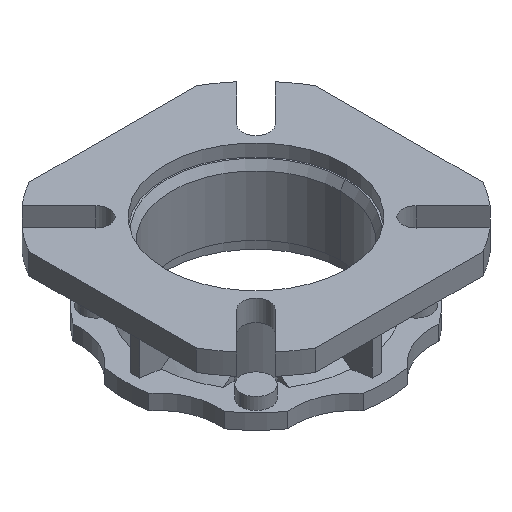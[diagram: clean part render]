
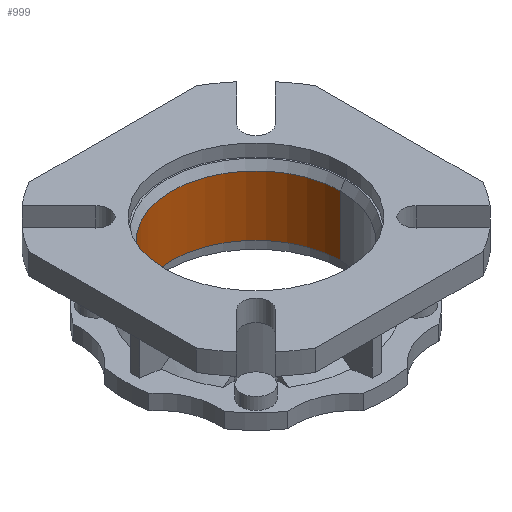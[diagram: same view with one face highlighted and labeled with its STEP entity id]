
A CAD part, isometric view. The second image highlights one B-rep face of the part: STEP entity #999.
In plain terms, the highlighted cylindrical face has radius 28 mm (diameter 56 mm), a partial arc.
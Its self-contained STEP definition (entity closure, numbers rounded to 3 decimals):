
#999=ADVANCED_FACE('',(#1127),#2972,.F.);
#1127=FACE_OUTER_BOUND('',#1254,.T.);
#1254=EDGE_LOOP('',(#1676,#1677,#1678,#1679));
#1676=ORIENTED_EDGE('',*,*,#2127,.F.);
#1677=ORIENTED_EDGE('',*,*,#2128,.T.);
#1678=ORIENTED_EDGE('',*,*,#2257,.F.);
#1679=ORIENTED_EDGE('',*,*,#2256,.F.);
#2127=EDGE_CURVE('',#2907,#2919,#2353,.T.);
#2128=EDGE_CURVE('',#2907,#2908,#2626,.T.);
#2256=EDGE_CURVE('',#2919,#2920,#2715,.T.);
#2257=EDGE_CURVE('',#2920,#2908,#2393,.T.);
#2353=TRIMMED_CURVE($,#2483,(#4855),(#4856),.T.,.CARTESIAN.);
#2393=TRIMMED_CURVE($,#2523,(#5219),(#5220),.T.,.CARTESIAN.);
#2483=CIRCLE('',#3402,28.);
#2523=CIRCLE('',#3442,28.);
#2626=B_SPLINE_CURVE_WITH_KNOTS('',1,(#4857,#4858),.UNSPECIFIED.,.F.,.F.,
(2,2),(2.05,21.95),.UNSPECIFIED.);
#2715=B_SPLINE_CURVE_WITH_KNOTS('',1,(#5216,#5217),.UNSPECIFIED.,.F.,.F.,
(2,2),(2.05,21.95),.UNSPECIFIED.);
#2907=VERTEX_POINT('',#4418);
#2908=VERTEX_POINT('',#4419);
#2919=VERTEX_POINT('',#4430);
#2920=VERTEX_POINT('',#4431);
#2972=CYLINDRICAL_SURFACE('',#3254,28.);
#3254=AXIS2_PLACEMENT_3D('',#4142,#3489,$);
#3402=AXIS2_PLACEMENT_3D($,#4854,#3714,#3715);
#3442=AXIS2_PLACEMENT_3D($,#5218,#3794,#3795);
#3489=DIRECTION('',(1.,0.,0.));
#3714=DIRECTION('',(1.,0.,0.));
#3715=DIRECTION('',(0.,0.,-1.));
#3794=DIRECTION('',(-1.,0.,0.));
#3795=DIRECTION('',(0.,0.,1.));
#4142=CARTESIAN_POINT('',(13.95,0.,0.));
#4418=CARTESIAN_POINT('',(4.,0.,-28.));
#4419=CARTESIAN_POINT('',(23.9,0.,-28.));
#4430=CARTESIAN_POINT('',(4.,0.,28.));
#4431=CARTESIAN_POINT('',(23.9,0.,28.));
#4854=CARTESIAN_POINT('',(4.,0.,0.));
#4855=CARTESIAN_POINT('',(4.,0.,-28.));
#4856=CARTESIAN_POINT('',(4.,0.,28.));
#4857=CARTESIAN_POINT('',(4.,0.,-28.));
#4858=CARTESIAN_POINT('',(23.9,0.,-28.));
#5216=CARTESIAN_POINT('',(4.,0.,28.));
#5217=CARTESIAN_POINT('',(23.9,0.,28.));
#5218=CARTESIAN_POINT('',(23.9,0.,0.));
#5219=CARTESIAN_POINT('',(23.9,0.,28.));
#5220=CARTESIAN_POINT('',(23.9,0.,-28.));
